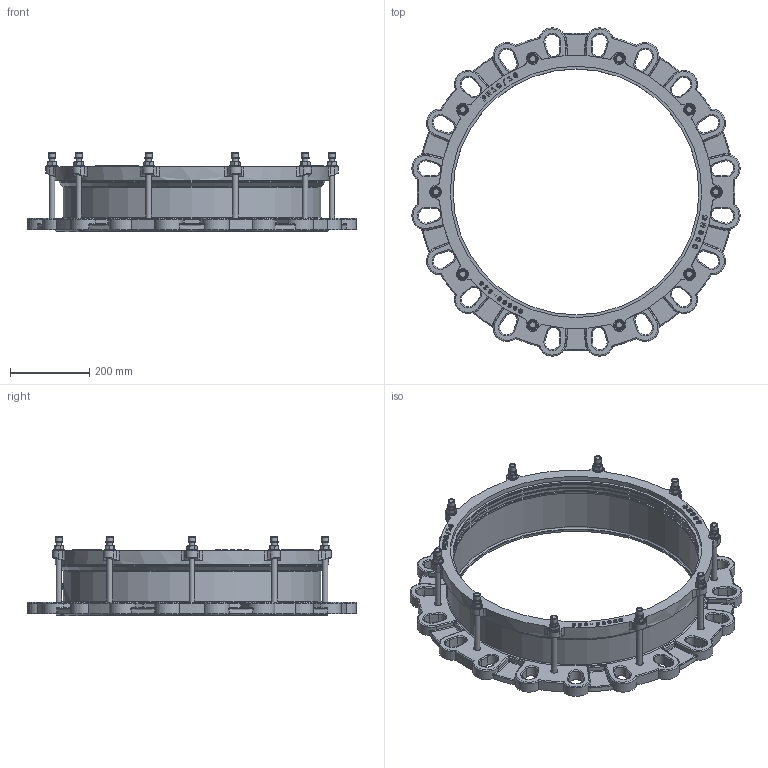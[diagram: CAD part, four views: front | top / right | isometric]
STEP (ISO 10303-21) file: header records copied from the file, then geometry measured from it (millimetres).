
FILE_DESCRIPTION(('STEP AP203'), '1');
FILE_NAME('Ôëàíöåâûé àäàïòåð', '', ('UNSPECIFIED'), ('UNSPECIFIED'), 'C3D Converter', 'C3D Toolkit', '');
FILE_SCHEMA(('CONFIG_CONTROL_DESIGN'));
Length unit declared in the file: millimetre
Assembly tree (43 placements, depth 2):
  (unnamed)
    (unnamed)
    (unnamed)  x10
    (unnamed)  x10
    (unnamed)  x10
    (unnamed)  x10
    (unnamed)
    (unnamed)
Bounding box: 830.43 x 830.44 x 201.4 mm (x, y, z)
Volume: 9310740.4 mm3; surface area: 1756182.1 mm2
Topology: 43 solids, 43 shells, 1892 faces, 4817 edges, 2925 vertices
Faces by surface type: plane 544, cylinder 507, extrusion 466, torus 161, bspline 80, cone 74, sphere 60
Full cylindrical faces by diameter (mm): 14 x30, 15 x10, 16 x20, 16.173 x1, 16.8 x10, 19.6 x10, 28 x10, 622 x5, 629 x3, 636 x2, 644 x1, 652 x2, 672 x1, 676 x2, 692 x1
Entity records: 71559 total; most frequent: CARTESIAN_POINT 30434, ORIENTED_EDGE 7696, DIRECTION 6169, EDGE_CURVE 3848, VERTEX_POINT 2433, AXIS2_PLACEMENT_3D 2095, VECTOR 1979, EDGE_LOOP 1747
